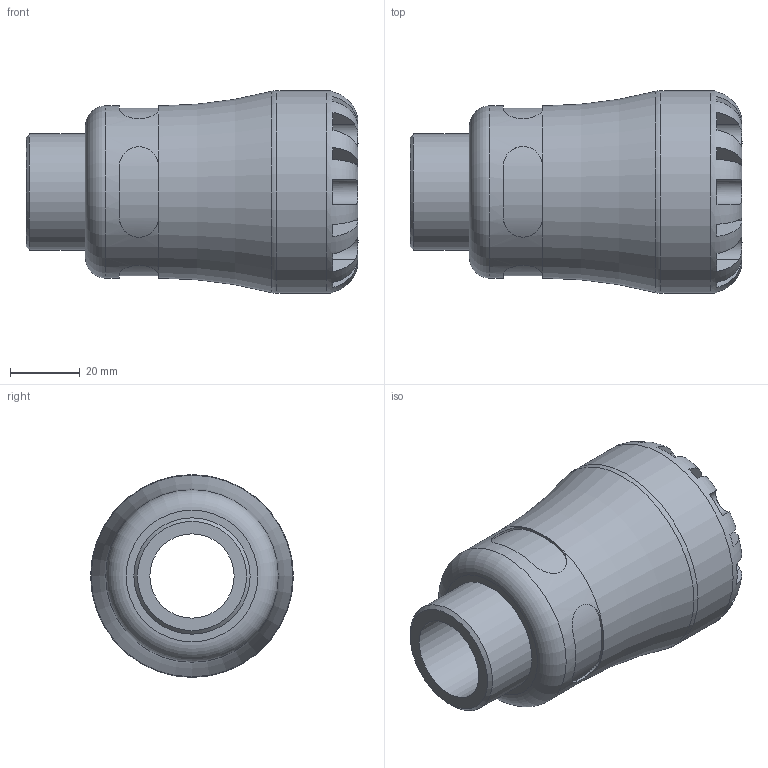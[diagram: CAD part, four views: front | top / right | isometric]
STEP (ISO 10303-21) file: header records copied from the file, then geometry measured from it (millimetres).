
FILE_DESCRIPTION(/* description */ ('PLASSON G-PLASS BRASS MALE ADAPTOR 32X1"'),/* implementation_level */ '2;1');
FILE_NAME(/* name */ 'C:\Users\Kirill\Dropbox\99-16-3568-Processing\S1\157200\stp\157200032010.stp',/* time_stamp */ '2023-10-21T23:02:34+04:00',/* author */ ('KIM'),/* organization */ (''),/* preprocessor_version */ 'ST-DEVELOPER v17.2',/* originating_system */ 'Autodesk Inventor 2019',/* authorisation */ '');
FILE_SCHEMA (('AUTOMOTIVE_DESIGN { 1 0 10303 214 3 1 1 }'));
Length unit declared in the file: millimetre
Products named in the file (1): 157200032010
Bounding box: 95 x 58 x 58 mm (x, y, z)
Volume: 117743.1 mm3; surface area: 27573.4 mm2
Topology: 1 solids, 1 shells, 99 faces, 261 edges, 169 vertices
Faces by surface type: plane 60, cylinder 33, torus 4, cone 2
Full cylindrical faces by diameter (mm): 24.106 x1, 32 x1, 33.249 x1, 49.3 x1, 58 x1
Entity records: 4010 total; most frequent: CARTESIAN_POINT 1452, ORIENTED_EDGE 522, DIRECTION 506, EDGE_CURVE 261, AXIS2_PLACEMENT_3D 209, VERTEX_POINT 169, CIRCLE 109, EDGE_LOOP 106
